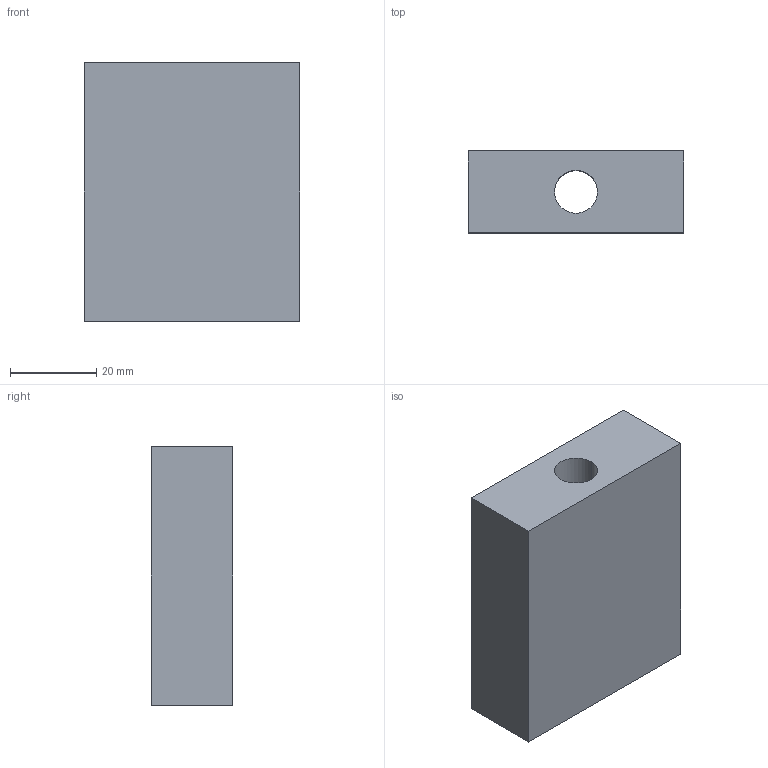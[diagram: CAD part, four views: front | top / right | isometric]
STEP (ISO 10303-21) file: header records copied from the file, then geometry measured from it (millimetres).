
FILE_DESCRIPTION (( 'STEP AP214' ), '1' );
FILE_NAME ('block.STEP', '2026-07-08T08:38:21', ( '' ), ( '' ), 'SwSTEP 2.0', 'SolidWorks 2024', '' );
FILE_SCHEMA (( 'AUTOMOTIVE_DESIGN' ));
Length unit declared in the file: millimetre
Products named in the file (1): block
Bounding box: 50 x 19 x 60 mm (x, y, z)
Volume: 51874.8 mm3; surface area: 11927.8 mm2
Topology: 1 solids, 1 shells, 12 faces, 30 edges, 20 vertices
Faces by surface type: plane 8, cylinder 4
Entity records: 393 total; most frequent: CARTESIAN_POINT 75, ORIENTED_EDGE 60, DIRECTION 60, EDGE_CURVE 30, AXIS2_PLACEMENT_3D 21, VERTEX_POINT 20, VECTOR 18, LINE 18
